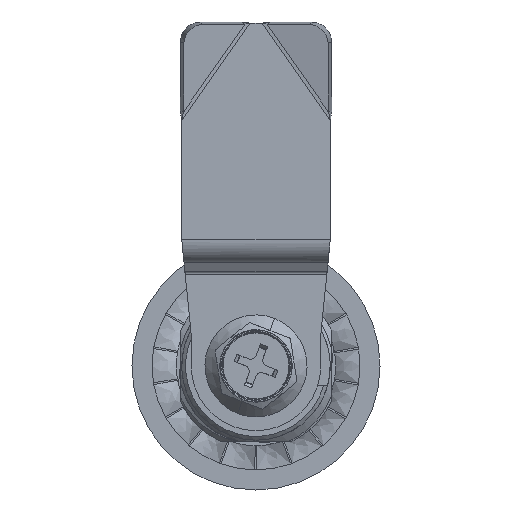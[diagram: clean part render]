
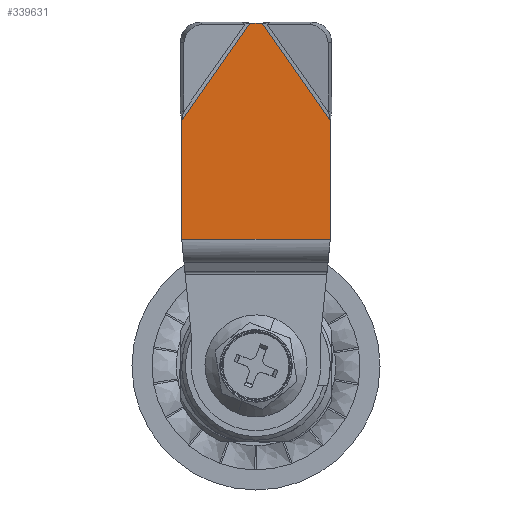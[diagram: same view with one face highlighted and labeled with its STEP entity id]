
A CAD part, front view. The second image highlights one B-rep face of the part: STEP entity #339631.
In plain terms, the highlighted planar face has unit normal (0, -1, 0).
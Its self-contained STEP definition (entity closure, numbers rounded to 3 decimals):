
#21607 = CARTESIAN_POINT ( 'NONE',  ( 16.621, -3., 9.75 ) ) ;
#22760 = LINE ( 'NONE', #306794, #288125 ) ;
#28873 = DIRECTION ( 'NONE',  ( -1., 0., 0. ) ) ;
#31651 = CARTESIAN_POINT ( 'NONE',  ( 16.621, -3., -9.75 ) ) ;
#32316 = DIRECTION ( 'NONE',  ( -1., 0., 0. ) ) ;
#56739 = ORIENTED_EDGE ( 'NONE', *, *, #70745, .T. ) ;
#69930 = LINE ( 'NONE', #184228, #136069 ) ;
#70425 = CARTESIAN_POINT ( 'NONE',  ( 32.252, -3., -9.75 ) ) ;
#70745 = EDGE_CURVE ( 'NONE', #342634, #361555, #71494, .T. ) ;
#71494 = LINE ( 'NONE', #209871, #265749 ) ;
#86047 = CARTESIAN_POINT ( 'NONE',  ( 45., -3., 9.75 ) ) ;
#100952 = DIRECTION ( 'NONE',  ( -0.819, 0., 0.574 ) ) ;
#107092 = PLANE ( 'NONE',  #260615 ) ;
#110715 = DIRECTION ( 'NONE',  ( 0., -1., 0. ) ) ;
#111703 = LINE ( 'NONE', #200176, #249795 ) ;
#116487 = EDGE_CURVE ( 'NONE', #236695, #189681, #111703, .T. ) ;
#125268 = VECTOR ( 'NONE', #344200, 1000. ) ;
#136069 = VECTOR ( 'NONE', #213715, 1000. ) ;
#139614 = CARTESIAN_POINT ( 'NONE',  ( 32.252, -3., 9.75 ) ) ;
#142030 = ORIENTED_EDGE ( 'NONE', *, *, #349017, .T. ) ;
#146838 = CARTESIAN_POINT ( 'NONE',  ( 16.621, -3., 9.75 ) ) ;
#147015 = EDGE_CURVE ( 'NONE', #342634, #363417, #22760, .T. ) ;
#158904 = CARTESIAN_POINT ( 'NONE',  ( 45., -3., -0.824 ) ) ;
#169057 = LINE ( 'NONE', #146838, #125268 ) ;
#184228 = CARTESIAN_POINT ( 'NONE',  ( 49.968, -3., 2.655 ) ) ;
#189681 = VERTEX_POINT ( 'NONE', #31651 ) ;
#190118 = CARTESIAN_POINT ( 'NONE',  ( 45., -3., 9.75 ) ) ;
#195838 = VECTOR ( 'NONE', #28873, 1000. ) ;
#200176 = CARTESIAN_POINT ( 'NONE',  ( 45., -3., -9.75 ) ) ;
#209871 = CARTESIAN_POINT ( 'NONE',  ( 40.806, -3., 3.76 ) ) ;
#210827 = ORIENTED_EDGE ( 'NONE', *, *, #349259, .T. ) ;
#213715 = DIRECTION ( 'NONE',  ( -0.819, 0., -0.574 ) ) ;
#223252 = DIRECTION ( 'NONE',  ( 1., 0., 0. ) ) ;
#236695 = VERTEX_POINT ( 'NONE', #70425 ) ;
#237306 = ORIENTED_EDGE ( 'NONE', *, *, #147015, .F. ) ;
#249795 = VECTOR ( 'NONE', #32316, 1000. ) ;
#260615 = AXIS2_PLACEMENT_3D ( 'NONE', #190118, #110715, #223252 ) ;
#265749 = VECTOR ( 'NONE', #100952, 1000. ) ;
#275591 = CARTESIAN_POINT ( 'NONE',  ( 45., -3., 0.824 ) ) ;
#288125 = VECTOR ( 'NONE', #301344, 1000. ) ;
#301344 = DIRECTION ( 'NONE',  ( 0., 0., -1. ) ) ;
#306794 = CARTESIAN_POINT ( 'NONE',  ( 45., -3., 9.75 ) ) ;
#312307 = EDGE_CURVE ( 'NONE', #363417, #236695, #69930, .T. ) ;
#328639 = ORIENTED_EDGE ( 'NONE', *, *, #116487, .F. ) ;
#339631 = ADVANCED_FACE ( 'NONE', ( #357950 ), #107092, .T. ) ;
#340544 = LINE ( 'NONE', #86047, #195838 ) ;
#342211 = EDGE_LOOP ( 'NONE', ( #237306, #56739, #142030, #210827, #328639, #356283 ) ) ;
#342634 = VERTEX_POINT ( 'NONE', #275591 ) ;
#344200 = DIRECTION ( 'NONE',  ( 0., 0., -1. ) ) ;
#348871 = VERTEX_POINT ( 'NONE', #21607 ) ;
#349017 = EDGE_CURVE ( 'NONE', #361555, #348871, #340544, .T. ) ;
#349259 = EDGE_CURVE ( 'NONE', #348871, #189681, #169057, .T. ) ;
#356283 = ORIENTED_EDGE ( 'NONE', *, *, #312307, .F. ) ;
#357950 = FACE_OUTER_BOUND ( 'NONE', #342211, .T. ) ;
#361555 = VERTEX_POINT ( 'NONE', #139614 ) ;
#363417 = VERTEX_POINT ( 'NONE', #158904 ) ;
